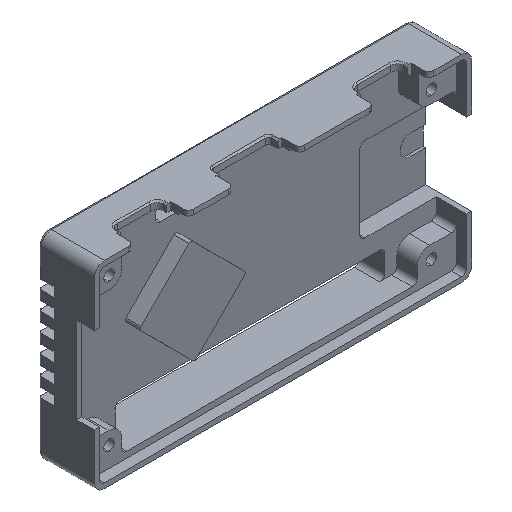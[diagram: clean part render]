
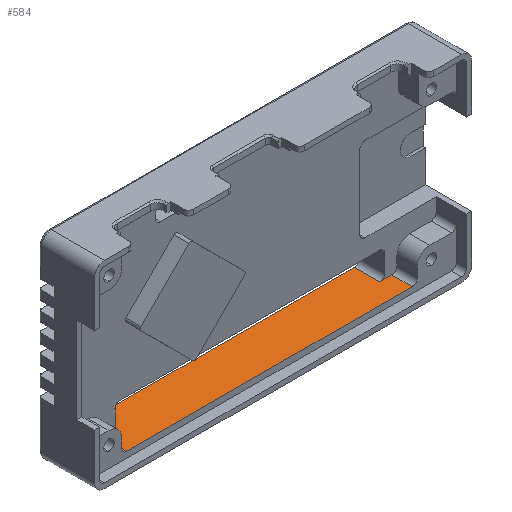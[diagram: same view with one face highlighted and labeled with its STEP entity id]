
A CAD part, isometric view. The second image highlights one B-rep face of the part: STEP entity #584.
In plain terms, the highlighted planar face has unit normal (0, 0, 1).
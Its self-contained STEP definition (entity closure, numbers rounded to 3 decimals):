
#101 = DIRECTION ( 'NONE',  ( 0., 1., 0. ) ) ;
#312 = DIRECTION ( 'NONE',  ( 1., 0., 0. ) ) ;
#385 = EDGE_CURVE ( 'NONE', #2719, #3493, #3787, .T. ) ;
#573 = VERTEX_POINT ( 'NONE', #3371 ) ;
#584 = ADVANCED_FACE ( 'NONE', ( #733 ), #801, .T. ) ;
#733 = FACE_OUTER_BOUND ( 'NONE', #3592, .T. ) ;
#745 = VECTOR ( 'NONE', #5355, 1000. ) ;
#801 = PLANE ( 'NONE',  #5583 ) ;
#811 = VECTOR ( 'NONE', #4965, 1000. ) ;
#884 = CARTESIAN_POINT ( 'NONE',  ( -25.45, -0.5, -17.3 ) ) ;
#923 = EDGE_CURVE ( 'NONE', #1685, #5046, #1287, .T. ) ;
#1210 = CARTESIAN_POINT ( 'NONE',  ( 25.75, 4.5, -17.3 ) ) ;
#1287 = LINE ( 'NONE', #1210, #3873 ) ;
#1583 = CARTESIAN_POINT ( 'NONE',  ( 28.15, -0.5, -17.3 ) ) ;
#1595 = DIRECTION ( 'NONE',  ( 0., -1., 0. ) ) ;
#1610 = DIRECTION ( 'NONE',  ( 0., -1., 0. ) ) ;
#1685 = VERTEX_POINT ( 'NONE', #5795 ) ;
#1802 = ORIENTED_EDGE ( 'NONE', *, *, #2504, .T. ) ;
#1813 = CARTESIAN_POINT ( 'NONE',  ( -25.95, -52.7, -17.3 ) ) ;
#1877 = CARTESIAN_POINT ( 'NONE',  ( 26.25, -4.5, -17.3 ) ) ;
#1909 = LINE ( 'NONE', #2423, #5596 ) ;
#2073 = EDGE_CURVE ( 'NONE', #3709, #1685, #3698, .T. ) ;
#2159 = VECTOR ( 'NONE', #3834, 1000. ) ;
#2239 = VECTOR ( 'NONE', #6794, 1000. ) ;
#2286 = LINE ( 'NONE', #1877, #811 ) ;
#2423 = CARTESIAN_POINT ( 'NONE',  ( -25.95, 4.5, -17.3 ) ) ;
#2504 = EDGE_CURVE ( 'NONE', #573, #6368, #2286, .T. ) ;
#2512 = CARTESIAN_POINT ( 'NONE',  ( 28.15, -4.5, -17.3 ) ) ;
#2634 = CARTESIAN_POINT ( 'NONE',  ( -35.87, -0.5, -17.3 ) ) ;
#2719 = VERTEX_POINT ( 'NONE', #4117 ) ;
#2737 = CARTESIAN_POINT ( 'NONE',  ( -28.15, -4.5, -17.3 ) ) ;
#2799 = EDGE_CURVE ( 'NONE', #4579, #573, #5759, .T. ) ;
#2916 = DIRECTION ( 'NONE',  ( 0., 0., 1. ) ) ;
#3128 = LINE ( 'NONE', #2634, #745 ) ;
#3371 = CARTESIAN_POINT ( 'NONE',  ( -28.15, -4.5, -17.3 ) ) ;
#3455 = VECTOR ( 'NONE', #1595, 1000. ) ;
#3493 = VERTEX_POINT ( 'NONE', #884 ) ;
#3592 = EDGE_LOOP ( 'NONE', ( #6325, #5739, #1802, #4505, #5558, #6354, #4266, #5619 ) ) ;
#3698 = LINE ( 'NONE', #3733, #2239 ) ;
#3709 = VERTEX_POINT ( 'NONE', #5978 ) ;
#3733 = CARTESIAN_POINT ( 'NONE',  ( 35.87, -0.5, -17.3 ) ) ;
#3787 = LINE ( 'NONE', #4837, #4580 ) ;
#3834 = DIRECTION ( 'NONE',  ( 0., 1., 0. ) ) ;
#3855 = DIRECTION ( 'NONE',  ( 1., 0., 0. ) ) ;
#3873 = VECTOR ( 'NONE', #101, 1000. ) ;
#4117 = CARTESIAN_POINT ( 'NONE',  ( -25.45, 4.5, -17.3 ) ) ;
#4166 = CARTESIAN_POINT ( 'NONE',  ( -28.15, -0.5, -17.3 ) ) ;
#4184 = EDGE_CURVE ( 'NONE', #2719, #5046, #1909, .T. ) ;
#4260 = CARTESIAN_POINT ( 'NONE',  ( 25.75, 4.5, -17.3 ) ) ;
#4266 = ORIENTED_EDGE ( 'NONE', *, *, #4184, .F. ) ;
#4307 = EDGE_CURVE ( 'NONE', #6368, #3709, #4341, .T. ) ;
#4341 = LINE ( 'NONE', #1583, #2159 ) ;
#4505 = ORIENTED_EDGE ( 'NONE', *, *, #4307, .T. ) ;
#4579 = VERTEX_POINT ( 'NONE', #4166 ) ;
#4580 = VECTOR ( 'NONE', #1610, 1000. ) ;
#4837 = CARTESIAN_POINT ( 'NONE',  ( -25.45, -0.5, -17.3 ) ) ;
#4965 = DIRECTION ( 'NONE',  ( 1., 0., 0. ) ) ;
#5046 = VERTEX_POINT ( 'NONE', #4260 ) ;
#5085 = EDGE_CURVE ( 'NONE', #4579, #3493, #3128, .T. ) ;
#5355 = DIRECTION ( 'NONE',  ( 1., 0., 0. ) ) ;
#5558 = ORIENTED_EDGE ( 'NONE', *, *, #2073, .T. ) ;
#5583 = AXIS2_PLACEMENT_3D ( 'NONE', #1813, #2916, #3855 ) ;
#5596 = VECTOR ( 'NONE', #312, 1000. ) ;
#5619 = ORIENTED_EDGE ( 'NONE', *, *, #385, .T. ) ;
#5739 = ORIENTED_EDGE ( 'NONE', *, *, #2799, .T. ) ;
#5759 = LINE ( 'NONE', #2737, #3455 ) ;
#5795 = CARTESIAN_POINT ( 'NONE',  ( 25.75, -0.5, -17.3 ) ) ;
#5978 = CARTESIAN_POINT ( 'NONE',  ( 28.15, -0.5, -17.3 ) ) ;
#6325 = ORIENTED_EDGE ( 'NONE', *, *, #5085, .F. ) ;
#6354 = ORIENTED_EDGE ( 'NONE', *, *, #923, .T. ) ;
#6368 = VERTEX_POINT ( 'NONE', #2512 ) ;
#6794 = DIRECTION ( 'NONE',  ( -1., 0., 0. ) ) ;
